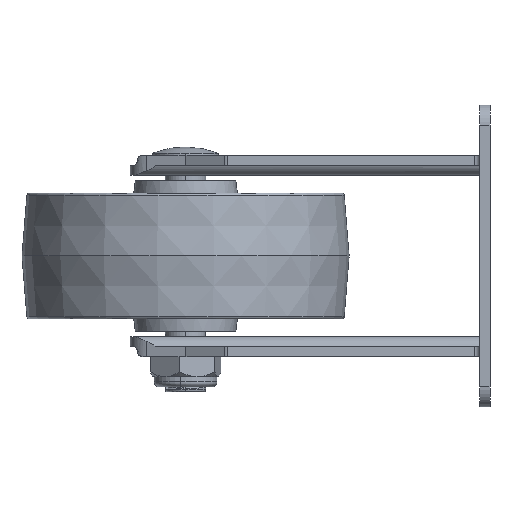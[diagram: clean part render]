
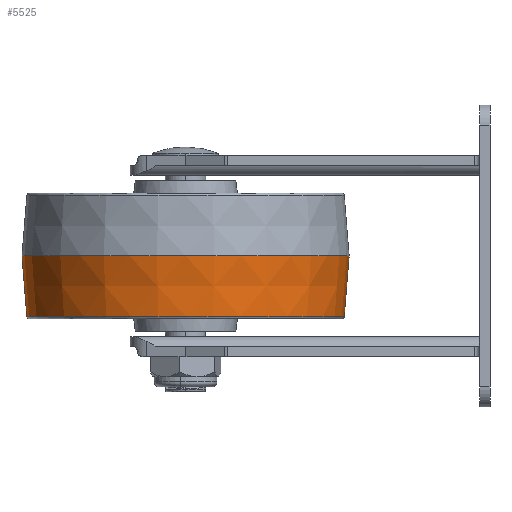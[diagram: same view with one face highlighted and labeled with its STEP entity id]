
A CAD part, left-side view. The second image highlights one B-rep face of the part: STEP entity #5525.
In plain terms, the highlighted conical face has half-angle 4.574 degrees and reference radius 32.5 mm.
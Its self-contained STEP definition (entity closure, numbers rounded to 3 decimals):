
#537 = VECTOR ( 'NONE', #946, 1000. ) ;
#946 = DIRECTION ( 'NONE',  ( 0., 0.997, 0.08 ) ) ;
#1797 = VERTEX_POINT ( 'NONE', #4798 ) ;
#2048 = ORIENTED_EDGE ( 'NONE', *, *, #13128, .T. ) ;
#2120 = CIRCLE ( 'NONE', #14097, 31.537 ) ;
#2440 = AXIS2_PLACEMENT_3D ( 'NONE', #9149, #3698, #11616 ) ;
#2453 = VERTEX_POINT ( 'NONE', #15077 ) ;
#3663 = DIRECTION ( 'NONE',  ( 0., 1., 0. ) ) ;
#3698 = DIRECTION ( 'NONE',  ( 0., -1., 0. ) ) ;
#3836 = LINE ( 'NONE', #9028, #537 ) ;
#4551 = DIRECTION ( 'NONE',  ( 0., 1., 0. ) ) ;
#4798 = CARTESIAN_POINT ( 'NONE',  ( 0., -12.04, -31.537 ) ) ;
#5136 = AXIS2_PLACEMENT_3D ( 'NONE', #11114, #4551, #7010 ) ;
#5525 = ADVANCED_FACE ( 'NONE', ( #16136 ), #14666, .T. ) ;
#6222 = DIRECTION ( 'NONE',  ( 0., 0., -1. ) ) ;
#6408 = ORIENTED_EDGE ( 'NONE', *, *, #15975, .F. ) ;
#6666 = EDGE_CURVE ( 'NONE', #1797, #13983, #2120, .T. ) ;
#7010 = DIRECTION ( 'NONE',  ( 0., 0., -1. ) ) ;
#7314 = ORIENTED_EDGE ( 'NONE', *, *, #6666, .T. ) ;
#9028 = CARTESIAN_POINT ( 'NONE',  ( 0., 0., 32.5 ) ) ;
#9149 = CARTESIAN_POINT ( 'NONE',  ( 0., 0., 0. ) ) ;
#9841 = VECTOR ( 'NONE', #10558, 1000. ) ;
#10558 = DIRECTION ( 'NONE',  ( 0., 0.997, -0.08 ) ) ;
#10724 = CARTESIAN_POINT ( 'NONE',  ( 0., 0., -32.5 ) ) ;
#11016 = CARTESIAN_POINT ( 'NONE',  ( 0., -12.04, 31.537 ) ) ;
#11105 = CARTESIAN_POINT ( 'NONE',  ( 0., 0., -32.5 ) ) ;
#11114 = CARTESIAN_POINT ( 'NONE',  ( 0., 0., 0. ) ) ;
#11616 = DIRECTION ( 'NONE',  ( 0., 0., -1. ) ) ;
#12006 = LINE ( 'NONE', #10724, #9841 ) ;
#12462 = ORIENTED_EDGE ( 'NONE', *, *, #12497, .T. ) ;
#12497 = EDGE_CURVE ( 'NONE', #2453, #14427, #15228, .T. ) ;
#13128 = EDGE_CURVE ( 'NONE', #13983, #2453, #3836, .T. ) ;
#13372 = EDGE_LOOP ( 'NONE', ( #7314, #2048, #12462, #6408 ) ) ;
#13983 = VERTEX_POINT ( 'NONE', #11016 ) ;
#14097 = AXIS2_PLACEMENT_3D ( 'NONE', #15343, #3663, #6222 ) ;
#14427 = VERTEX_POINT ( 'NONE', #11105 ) ;
#14666 = CONICAL_SURFACE ( 'NONE', #5136, 32.5, 0.08 ) ;
#15077 = CARTESIAN_POINT ( 'NONE',  ( 0., 0., 32.5 ) ) ;
#15228 = CIRCLE ( 'NONE', #2440, 32.5 ) ;
#15343 = CARTESIAN_POINT ( 'NONE',  ( 0., -12.04, 0. ) ) ;
#15975 = EDGE_CURVE ( 'NONE', #1797, #14427, #12006, .T. ) ;
#16136 = FACE_OUTER_BOUND ( 'NONE', #13372, .T. ) ;
